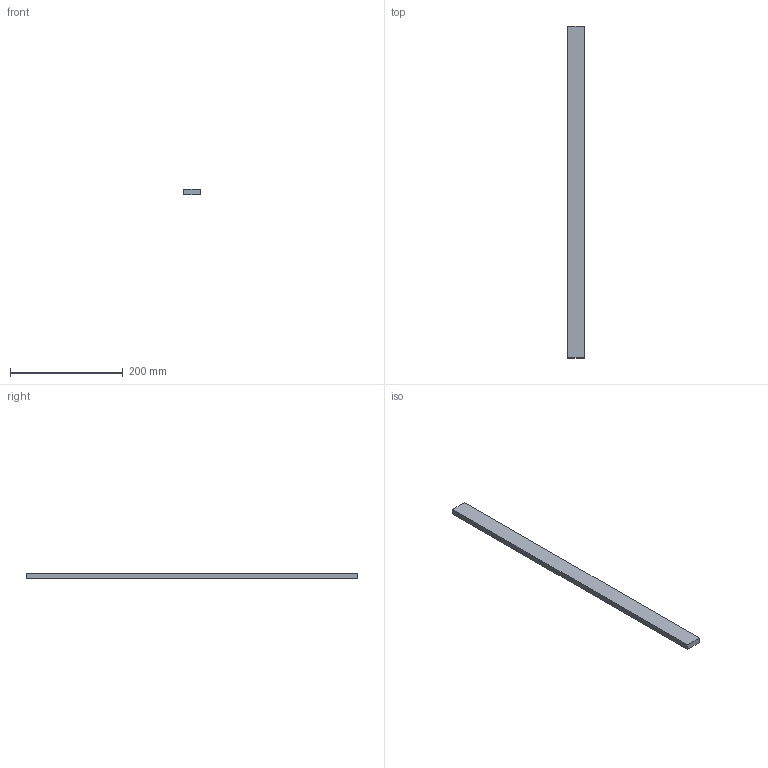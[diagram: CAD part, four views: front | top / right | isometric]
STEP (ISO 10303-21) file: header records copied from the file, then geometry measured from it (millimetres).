
FILE_DESCRIPTION (( 'STEP AP203' ), '1' );
FILE_NAME ('DN51394.STEP', '2025-10-31T07:36:30', ( '' ), ( '' ), 'SwSTEP 2.0', 'SolidWorks 2019', '' );
FILE_SCHEMA (( 'CONFIG_CONTROL_DESIGN' ));
Length unit declared in the file: millimetre
Products named in the file (1): DN51394
Bounding box: 30 x 590 x 10 mm (x, y, z)
Volume: 177000 mm3; surface area: 47800 mm2
Topology: 1 solids, 1 shells, 6 faces, 12 edges, 8 vertices
Faces by surface type: plane 6
Entity records: 233 total; most frequent: CARTESIAN_POINT 27, DIRECTION 26, ORIENTED_EDGE 24, VECTOR 12, LINE 12, EDGE_CURVE 12, PERSON_AND_ORGANIZATION 8, VERTEX_POINT 8
